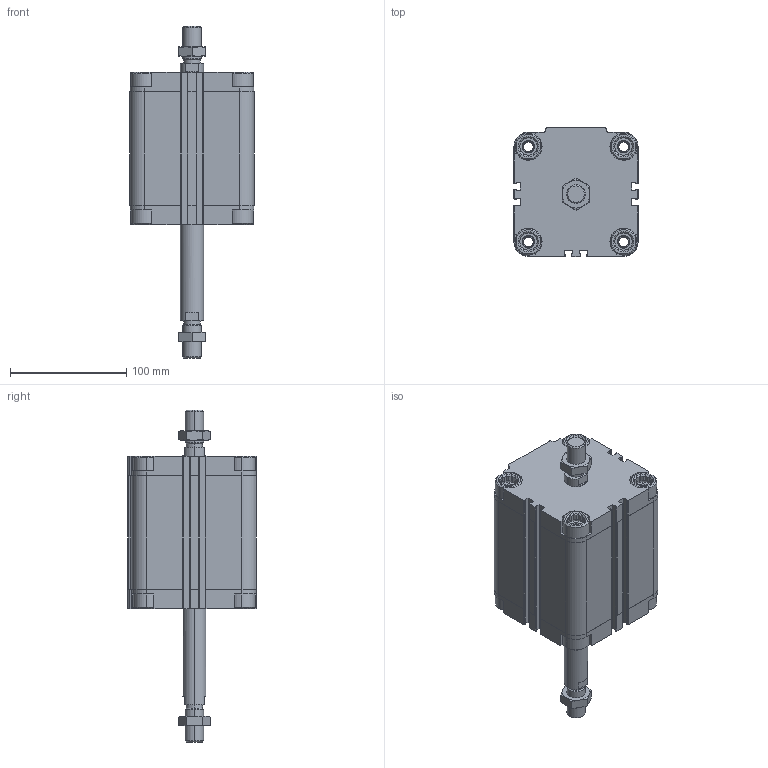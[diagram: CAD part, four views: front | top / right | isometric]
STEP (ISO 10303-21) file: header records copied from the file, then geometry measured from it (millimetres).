
FILE_DESCRIPTION (( 'STEP AP203' ), '1' );
FILE_NAME ('CDVU80-75M-P.STEP', '2020-07-21T15:25:52', ( '' ), ( '' ), 'SwSTEP 2.0', 'SolidWorks 2019', '' );
FILE_SCHEMA (( 'CONFIG_CONTROL_DESIGN' ));
Length unit declared in the file: millimetre
Products named in the file (1): CDVU80-75M-P
Bounding box: 107 x 111 x 286 mm (x, y, z)
Volume: 1088122.5 mm3; surface area: 182242.7 mm2
Topology: 4 solids, 4 shells, 706 faces, 1888 edges, 1234 vertices
Faces by surface type: plane 410, cylinder 216, cone 80
Entity records: 22967 total; most frequent: CARTESIAN_POINT 5177, ORIENTED_EDGE 3768, DIRECTION 3610, EDGE_CURVE 1884, AXIS2_PLACEMENT_3D 1235, VERTEX_POINT 1234, LINE 1140, VECTOR 1140
